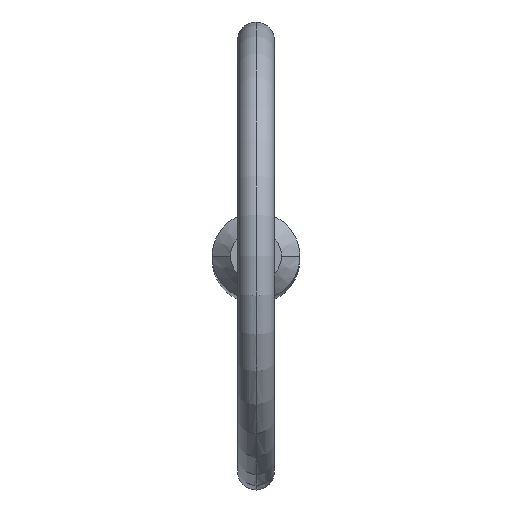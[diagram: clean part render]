
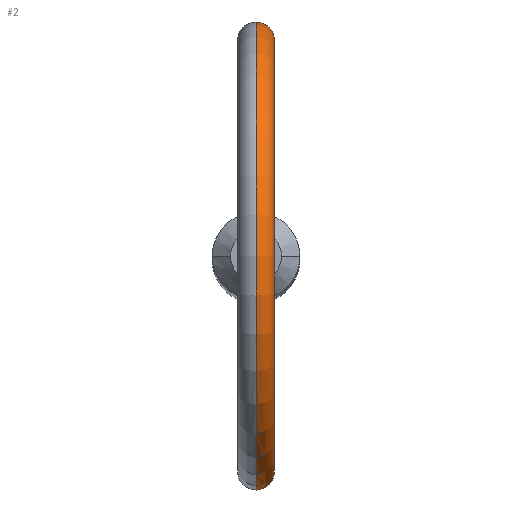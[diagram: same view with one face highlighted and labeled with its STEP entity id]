
A CAD part, top view. The second image highlights one B-rep face of the part: STEP entity #2.
In plain terms, the highlighted toroidal (fillet/blend) face has major radius 11.7 mm and minor radius 1 mm.
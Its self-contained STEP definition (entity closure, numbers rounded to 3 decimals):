
#2 = ADVANCED_FACE ( 'NONE', ( #115 ), #332, .T. ) ;
#3 = CIRCLE ( 'NONE', #218, 12.7 ) ;
#8 = CARTESIAN_POINT ( 'NONE',  ( 0.793, -2.246, 95.852 ) ) ;
#10 = DIRECTION ( 'NONE',  ( 1., 0., 0. ) ) ;
#32 = CARTESIAN_POINT ( 'NONE',  ( 0.884, 2.21, 94.717 ) ) ;
#35 = CARTESIAN_POINT ( 'NONE',  ( 0., 0., 106.7 ) ) ;
#43 = CARTESIAN_POINT ( 'NONE',  ( 0.811, -2.24, 94.606 ) ) ;
#44 = CARTESIAN_POINT ( 'NONE',  ( 0.513, -2.327, 94.348 ) ) ;
#48 = AXIS2_PLACEMENT_3D ( 'NONE', #264, #10, #222 ) ;
#63 = B_SPLINE_CURVE_WITH_KNOTS ( 'NONE', 3,
 ( #446, #441, #229, #369, #152, #8, #108, #148, #263, #337, #74, #261, #43, #75, #44, #114, #302, #372 ),
 .UNSPECIFIED., .F., .F.,
 ( 4, 2, 2, 2, 2, 2, 2, 2, 4 ),
 ( 0.003, 0.003, 0.003, 0.004, 0.004, 0.005, 0.005, 0.005, 0.006 ),
 .UNSPECIFIED. ) ;
#64 = CARTESIAN_POINT ( 'NONE',  ( 0.267, 2.368, 94.25 ) ) ;
#67 = DIRECTION ( 'NONE',  ( 1., 0., 0. ) ) ;
#71 = ORIENTED_EDGE ( 'NONE', *, *, #134, .F. ) ;
#74 = CARTESIAN_POINT ( 'NONE',  ( 0.981, -2.169, 94.964 ) ) ;
#75 = CARTESIAN_POINT ( 'NONE',  ( 0.625, -2.299, 94.421 ) ) ;
#82 = VERTEX_POINT ( 'NONE', #102 ) ;
#87 = EDGE_CURVE ( 'NONE', #144, #366, #280, .T. ) ;
#102 = CARTESIAN_POINT ( 'NONE',  ( 0., -2.38, 96.268 ) ) ;
#105 = CARTESIAN_POINT ( 'NONE',  ( 0.133, 2.38, 94.225 ) ) ;
#108 = CARTESIAN_POINT ( 'NONE',  ( 0.865, -2.218, 95.74 ) ) ;
#114 = CARTESIAN_POINT ( 'NONE',  ( 0.268, -2.368, 94.251 ) ) ;
#115 = FACE_OUTER_BOUND ( 'NONE', #236, .T. ) ;
#118 = CARTESIAN_POINT ( 'NONE',  ( 0., 2.38, 96.268 ) ) ;
#131 = ORIENTED_EDGE ( 'NONE', *, *, #428, .T. ) ;
#134 = EDGE_CURVE ( 'NONE', #366, #82, #224, .T. ) ;
#141 = CARTESIAN_POINT ( 'NONE',  ( 0.864, 2.218, 95.741 ) ) ;
#142 = CARTESIAN_POINT ( 'NONE',  ( 0.996, 2.162, 95.364 ) ) ;
#144 = VERTEX_POINT ( 'NONE', #474 ) ;
#145 = CARTESIAN_POINT ( 'NONE',  ( 0.793, 2.246, 95.853 ) ) ;
#148 = CARTESIAN_POINT ( 'NONE',  ( 0.966, -2.176, 95.497 ) ) ;
#152 = CARTESIAN_POINT ( 'NONE',  ( 0.615, -2.301, 96.044 ) ) ;
#163 = EDGE_CURVE ( 'NONE', #82, #466, #63, .T. ) ;
#176 = CARTESIAN_POINT ( 'NONE',  ( 0., 2.38, 96.268 ) ) ;
#182 = ORIENTED_EDGE ( 'NONE', *, *, #87, .F. ) ;
#195 = DIRECTION ( 'NONE',  ( 1., 0., 0. ) ) ;
#218 = AXIS2_PLACEMENT_3D ( 'NONE', #461, #195, #355 ) ;
#222 = DIRECTION ( 'NONE',  ( 0., 0., -1. ) ) ;
#224 = CIRCLE ( 'NONE', #48, 10.7 ) ;
#229 = CARTESIAN_POINT ( 'NONE',  ( 0.268, -2.368, 96.237 ) ) ;
#236 = EDGE_LOOP ( 'NONE', ( #182, #131, #308, #71 ) ) ;
#253 = CARTESIAN_POINT ( 'NONE',  ( 0.981, 2.169, 94.962 ) ) ;
#261 = CARTESIAN_POINT ( 'NONE',  ( 0.885, -2.21, 94.717 ) ) ;
#263 = CARTESIAN_POINT ( 'NONE',  ( 0.996, -2.162, 95.364 ) ) ;
#264 = CARTESIAN_POINT ( 'NONE',  ( 0., 0., 106.7 ) ) ;
#280 = B_SPLINE_CURVE_WITH_KNOTS ( 'NONE', 3,
 ( #328, #105, #64, #436, #365, #368, #32, #253, #294, #142, #429, #141, #145, #439, #434, #403, #400, #176 ),
 .UNSPECIFIED., .F., .F.,
 ( 4, 2, 2, 2, 2, 2, 2, 2, 4 ),
 ( 0.001, 0.001, 0.001, 0.002, 0.002, 0.003, 0.003, 0.003, 0.004 ),
 .UNSPECIFIED. ) ;
#294 = CARTESIAN_POINT ( 'NONE',  ( 1.003, 2.158, 95.097 ) ) ;
#302 = CARTESIAN_POINT ( 'NONE',  ( 0.133, -2.38, 94.225 ) ) ;
#308 = ORIENTED_EDGE ( 'NONE', *, *, #163, .F. ) ;
#313 = CARTESIAN_POINT ( 'NONE',  ( 0., -2.38, 94.225 ) ) ;
#323 = AXIS2_PLACEMENT_3D ( 'NONE', #35, #67, #327 ) ;
#327 = DIRECTION ( 'NONE',  ( 0., 0., -1. ) ) ;
#328 = CARTESIAN_POINT ( 'NONE',  ( 0., 2.38, 94.225 ) ) ;
#332 = TOROIDAL_SURFACE ( 'NONE', #323, 11.7, 1. ) ;
#337 = CARTESIAN_POINT ( 'NONE',  ( 1.003, -2.158, 95.099 ) ) ;
#355 = DIRECTION ( 'NONE',  ( 0., 0., -1. ) ) ;
#365 = CARTESIAN_POINT ( 'NONE',  ( 0.625, 2.299, 94.421 ) ) ;
#366 = VERTEX_POINT ( 'NONE', #118 ) ;
#368 = CARTESIAN_POINT ( 'NONE',  ( 0.811, 2.24, 94.606 ) ) ;
#369 = CARTESIAN_POINT ( 'NONE',  ( 0.508, -2.328, 96.124 ) ) ;
#372 = CARTESIAN_POINT ( 'NONE',  ( 0., -2.38, 94.225 ) ) ;
#400 = CARTESIAN_POINT ( 'NONE',  ( 0.134, 2.38, 96.268 ) ) ;
#403 = CARTESIAN_POINT ( 'NONE',  ( 0.267, 2.368, 96.237 ) ) ;
#428 = EDGE_CURVE ( 'NONE', #144, #466, #3, .T. ) ;
#429 = CARTESIAN_POINT ( 'NONE',  ( 0.966, 2.176, 95.497 ) ) ;
#434 = CARTESIAN_POINT ( 'NONE',  ( 0.509, 2.328, 96.124 ) ) ;
#436 = CARTESIAN_POINT ( 'NONE',  ( 0.513, 2.327, 94.349 ) ) ;
#439 = CARTESIAN_POINT ( 'NONE',  ( 0.614, 2.301, 96.045 ) ) ;
#441 = CARTESIAN_POINT ( 'NONE',  ( 0.134, -2.38, 96.268 ) ) ;
#446 = CARTESIAN_POINT ( 'NONE',  ( 0., -2.38, 96.268 ) ) ;
#461 = CARTESIAN_POINT ( 'NONE',  ( 0., 0., 106.7 ) ) ;
#466 = VERTEX_POINT ( 'NONE', #313 ) ;
#474 = CARTESIAN_POINT ( 'NONE',  ( 0., 2.38, 94.225 ) ) ;
